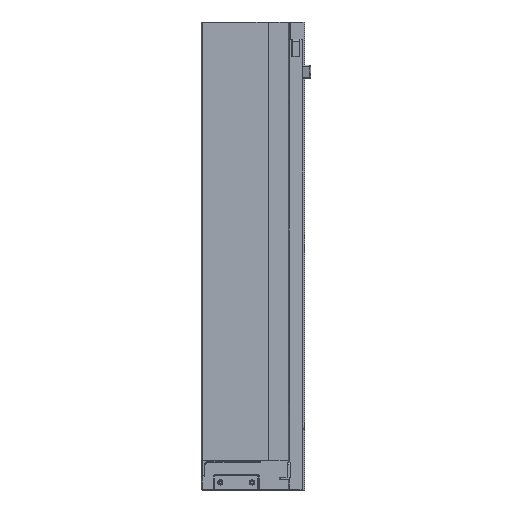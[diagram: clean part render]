
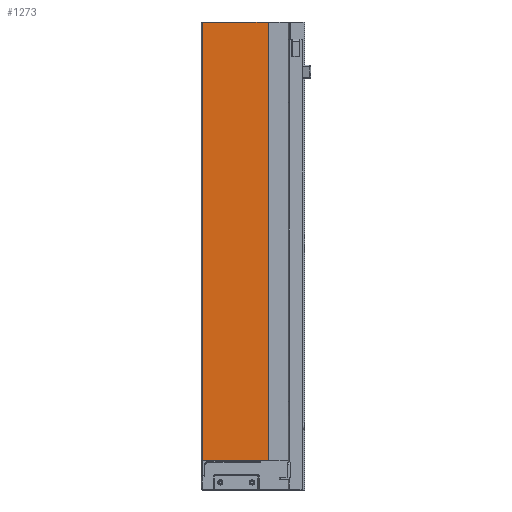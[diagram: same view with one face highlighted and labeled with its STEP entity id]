
A CAD part, left-side view. The second image highlights one B-rep face of the part: STEP entity #1273.
In plain terms, the highlighted planar face has unit normal (-1, 0, 0).
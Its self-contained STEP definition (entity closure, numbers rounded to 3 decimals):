
#29 = EDGE_CURVE ( 'NONE', #11745, #1465, #8005, .T. ) ;
#281 = VECTOR ( 'NONE', #9717, 1000. ) ;
#613 = EDGE_CURVE ( 'NONE', #9209, #6938, #842, .T. ) ;
#685 = CARTESIAN_POINT ( 'NONE',  ( -25.5, 0., 0. ) ) ;
#842 = LINE ( 'NONE', #6403, #8254 ) ;
#1273 = ADVANCED_FACE ( 'NONE', ( #9315 ), #5332, .T. ) ;
#1465 = VERTEX_POINT ( 'NONE', #685 ) ;
#1909 = VECTOR ( 'NONE', #7885, 1000. ) ;
#2012 = EDGE_CURVE ( 'NONE', #1465, #6938, #3981, .T. ) ;
#3146 = CARTESIAN_POINT ( 'NONE',  ( -25.5, 55.8, -373.5 ) ) ;
#3641 = ORIENTED_EDGE ( 'NONE', *, *, #613, .F. ) ;
#3981 = LINE ( 'NONE', #11032, #6243 ) ;
#4165 = AXIS2_PLACEMENT_3D ( 'NONE', #6532, #4708, #4577 ) ;
#4463 = LINE ( 'NONE', #6866, #1909 ) ;
#4577 = DIRECTION ( 'NONE',  ( 0., 0., 1. ) ) ;
#4708 = DIRECTION ( 'NONE',  ( -1., 0., 0. ) ) ;
#4806 = ORIENTED_EDGE ( 'NONE', *, *, #29, .T. ) ;
#5290 = EDGE_CURVE ( 'NONE', #11745, #9209, #4463, .T. ) ;
#5332 = PLANE ( 'NONE',  #4165 ) ;
#5502 = DIRECTION ( 'NONE',  ( 0., 0., 1. ) ) ;
#6243 = VECTOR ( 'NONE', #9116, 1000. ) ;
#6403 = CARTESIAN_POINT ( 'NONE',  ( -25.5, 55.8, -462.455 ) ) ;
#6532 = CARTESIAN_POINT ( 'NONE',  ( -25.5, 0., -462.455 ) ) ;
#6866 = CARTESIAN_POINT ( 'NONE',  ( -25.5, 0., -373.5 ) ) ;
#6938 = VERTEX_POINT ( 'NONE', #9966 ) ;
#7885 = DIRECTION ( 'NONE',  ( 0., 1., 0. ) ) ;
#8005 = LINE ( 'NONE', #9868, #281 ) ;
#8254 = VECTOR ( 'NONE', #5502, 1000. ) ;
#8279 = EDGE_LOOP ( 'NONE', ( #3641, #9713, #4806, #8569 ) ) ;
#8569 = ORIENTED_EDGE ( 'NONE', *, *, #2012, .T. ) ;
#9116 = DIRECTION ( 'NONE',  ( 0., 1., 0. ) ) ;
#9209 = VERTEX_POINT ( 'NONE', #3146 ) ;
#9315 = FACE_OUTER_BOUND ( 'NONE', #8279, .T. ) ;
#9713 = ORIENTED_EDGE ( 'NONE', *, *, #5290, .F. ) ;
#9717 = DIRECTION ( 'NONE',  ( 0., 0., 1. ) ) ;
#9868 = CARTESIAN_POINT ( 'NONE',  ( -25.5, 0., -462.455 ) ) ;
#9966 = CARTESIAN_POINT ( 'NONE',  ( -25.5, 55.8, 0. ) ) ;
#10630 = CARTESIAN_POINT ( 'NONE',  ( -25.5, 0., -373.5 ) ) ;
#11032 = CARTESIAN_POINT ( 'NONE',  ( -25.5, 0., 0. ) ) ;
#11745 = VERTEX_POINT ( 'NONE', #10630 ) ;
